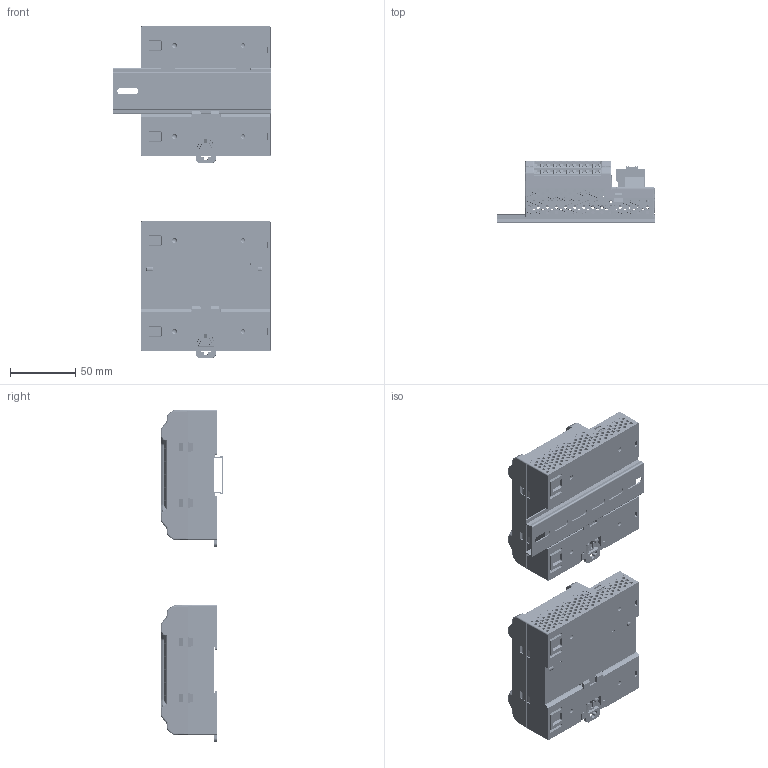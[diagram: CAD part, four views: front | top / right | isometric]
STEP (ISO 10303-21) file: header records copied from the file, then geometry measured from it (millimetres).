
FILE_DESCRIPTION(/* description */ (''),/* implementation_level */ '2;1');
FILE_NAME(/* name */ 'PLC方形壳体-0816.stp',/* time_stamp */ '2024-08-16T13:03:47+08:00',/* author */ (''),/* organization */ (''),/* preprocessor_version */ 'ST-DEVELOPER v16',/* originating_system */ 'SIEMENS PLM Software NX 10.0',/* authorisation */ '');
FILE_SCHEMA (('AUTOMOTIVE_DESIGN { 1 0 10303 214 3 1 1 1 }'));
Products named in the file (1): Admi1CDC34D9adzm
Bounding box: 121.18 x 48.3 x 255.35 mm (x, y, z)
Volume: 282314.6 mm3; surface area: 272285 mm2
Topology: 42 solids, 60 shells, 21812 faces, 59389 edges, 38408 vertices
Faces by surface type: plane 14864, cylinder 3556, extrusion 1884, bspline 876, cone 306, torus 282, sphere 44
Full cylindrical faces by diameter (mm): 0.4 x28, 1 x21, 1.1 x12, 1.4 x4, 1.5 x84, 1.6 x4, 1.73 x16, 1.8 x4, 2.7 x4, 2.8 x4, 3 x8, 3.2 x6, 3.5 x2, 3.85 x2, 5 x3
Entity records: 757041 total; most frequent: CARTESIAN_POINT 202855, ORIENTED_EDGE 118004, DIRECTION 99142, EDGE_CURVE 59002, VECTOR 43046, LINE 41162, VERTEX_POINT 38304, AXIS2_PLACEMENT_3D 28048
